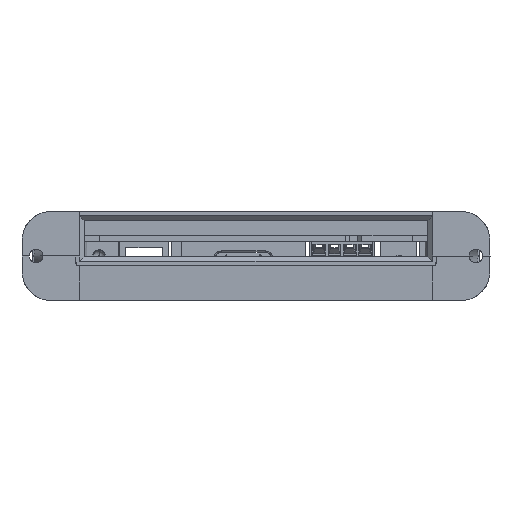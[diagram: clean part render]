
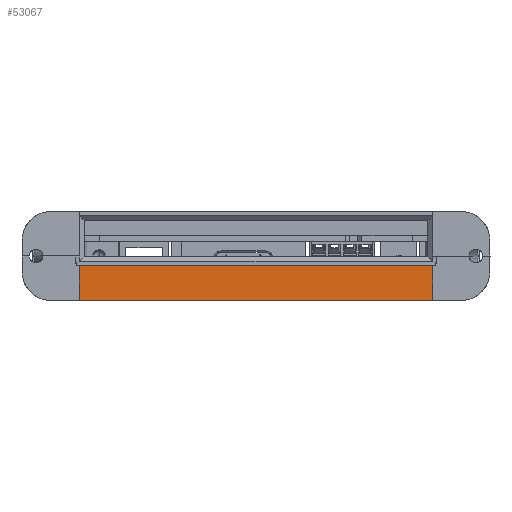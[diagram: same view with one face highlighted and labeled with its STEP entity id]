
A CAD part, left-side view. The second image highlights one B-rep face of the part: STEP entity #53067.
In plain terms, the highlighted planar face has unit normal (-1, 0, -0.018).
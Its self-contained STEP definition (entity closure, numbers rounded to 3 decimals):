
#1380 = CARTESIAN_POINT ( 'NONE',  ( -9.206, -80., 11. ) ) ;
#2481 = CARTESIAN_POINT ( 'NONE',  ( -9.014, -68.8, 0. ) ) ;
#4849 = VECTOR ( 'NONE', #13940, 1000. ) ;
#4988 = ORIENTED_EDGE ( 'NONE', *, *, #53942, .T. ) ;
#5603 = DIRECTION ( 'NONE',  ( 0.017, 0., -1. ) ) ;
#5985 = EDGE_CURVE ( 'NONE', #7498, #36198, #48871, .T. ) ;
#7498 = VERTEX_POINT ( 'NONE', #50005 ) ;
#11651 = VECTOR ( 'NONE', #42834, 1000. ) ;
#11824 = CARTESIAN_POINT ( 'NONE',  ( -9.014, 18.8, 0. ) ) ;
#12096 = EDGE_LOOP ( 'NONE', ( #4988, #24749, #26792, #18796 ) ) ;
#13491 = CARTESIAN_POINT ( 'NONE',  ( -9.164, 18.8, 8.6 ) ) ;
#13940 = DIRECTION ( 'NONE',  ( 0., 1., 0. ) ) ;
#14564 = FACE_OUTER_BOUND ( 'NONE', #12096, .T. ) ;
#17127 = CARTESIAN_POINT ( 'NONE',  ( -9.014, 30., 0. ) ) ;
#18796 = ORIENTED_EDGE ( 'NONE', *, *, #49133, .F. ) ;
#19279 = DIRECTION ( 'NONE',  ( -0.017, 0., 1. ) ) ;
#19301 = AXIS2_PLACEMENT_3D ( 'NONE', #1380, #31195, #5603 ) ;
#19499 = CARTESIAN_POINT ( 'NONE',  ( -9.206, -68.8, 11. ) ) ;
#21701 = LINE ( 'NONE', #17127, #11651 ) ;
#22698 = VERTEX_POINT ( 'NONE', #2481 ) ;
#24347 = VECTOR ( 'NONE', #19279, 1000. ) ;
#24749 = ORIENTED_EDGE ( 'NONE', *, *, #34720, .T. ) ;
#26792 = ORIENTED_EDGE ( 'NONE', *, *, #5985, .T. ) ;
#31195 = DIRECTION ( 'NONE',  ( -1., 0., -0.017 ) ) ;
#34720 = EDGE_CURVE ( 'NONE', #22698, #7498, #43485, .T. ) ;
#35755 = LINE ( 'NONE', #53395, #24347 ) ;
#36198 = VERTEX_POINT ( 'NONE', #13491 ) ;
#39559 = PLANE ( 'NONE',  #19301 ) ;
#42834 = DIRECTION ( 'NONE',  ( 0., -1., 0. ) ) ;
#43485 = LINE ( 'NONE', #19499, #54954 ) ;
#45148 = DIRECTION ( 'NONE',  ( -0.017, 0., 1. ) ) ;
#47637 = VERTEX_POINT ( 'NONE', #11824 ) ;
#48871 = LINE ( 'NONE', #52541, #4849 ) ;
#49133 = EDGE_CURVE ( 'NONE', #47637, #36198, #35755, .T. ) ;
#50005 = CARTESIAN_POINT ( 'NONE',  ( -9.164, -68.8, 8.6 ) ) ;
#52541 = CARTESIAN_POINT ( 'NONE',  ( -9.164, -80., 8.6 ) ) ;
#53067 = ADVANCED_FACE ( 'NONE', ( #14564 ), #39559, .T. ) ;
#53395 = CARTESIAN_POINT ( 'NONE',  ( -9.206, 18.8, 11. ) ) ;
#53942 = EDGE_CURVE ( 'NONE', #47637, #22698, #21701, .T. ) ;
#54954 = VECTOR ( 'NONE', #45148, 1000. ) ;
